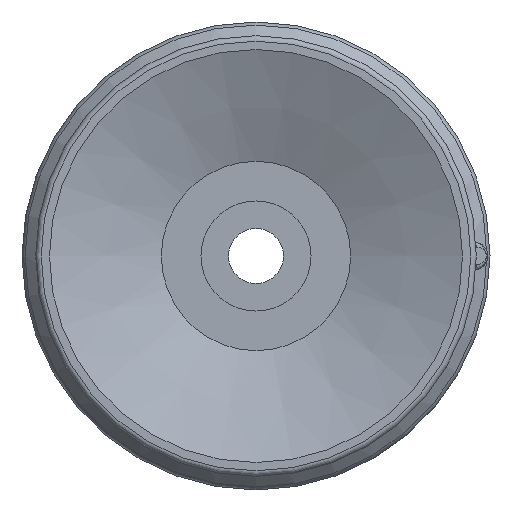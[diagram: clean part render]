
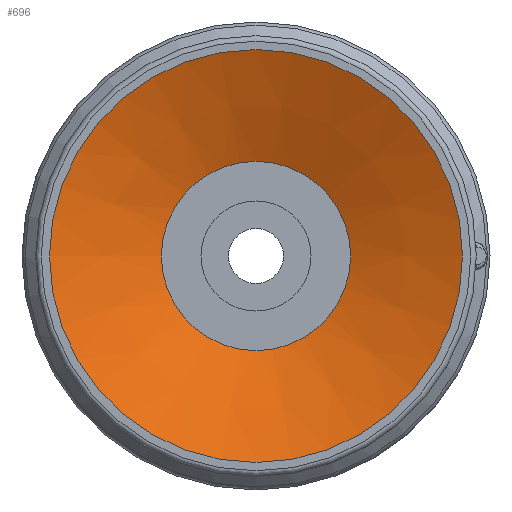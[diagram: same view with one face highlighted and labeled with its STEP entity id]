
A CAD part, front view. The second image highlights one B-rep face of the part: STEP entity #696.
In plain terms, the highlighted conical face has half-angle 67.5 degrees and reference radius 3.437 mm.
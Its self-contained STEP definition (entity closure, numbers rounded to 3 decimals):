
#696=ADVANCED_FACE('',(#1009,#1010),#1011,.F.);
#1009=FACE_BOUND('',#2409,.T.);
#1010=FACE_OUTER_BOUND('',#2410,.T.);
#1011=CONICAL_SURFACE('',#2411,3.437,1.178);
#2409=EDGE_LOOP('',(#3385));
#2410=EDGE_LOOP('',(#3386));
#2411=AXIS2_PLACEMENT_3D('',#3387,#3388,#3389);
#3385=ORIENTED_EDGE('',*,*,#3875,.F.);
#3386=ORIENTED_EDGE('',*,*,#3863,.T.);
#3387=CARTESIAN_POINT('',(0.0,0.0,1.683));
#3388=DIRECTION('',(0.0,0.,-1.0));
#3389=DIRECTION('',(0.0,1.0,0.));
#3863=EDGE_CURVE('',#4234,#4234,#4235,.T.);
#3875=EDGE_CURVE('',#4258,#4258,#4259,.T.);
#4234=VERTEX_POINT('',#5197);
#4235=CIRCLE('',#5198,7.5);
#4258=VERTEX_POINT('',#5221);
#4259=CIRCLE('',#5222,3.437);
#5197=CARTESIAN_POINT('',(-7.5,0.0,0.));
#5198=AXIS2_PLACEMENT_3D('',#5917,#5918,#5919);
#5221=CARTESIAN_POINT('',(-3.437,0.0,1.683));
#5222=AXIS2_PLACEMENT_3D('',#5953,#5954,#5955);
#5917=CARTESIAN_POINT('',(0.0,0.0,0.));
#5918=DIRECTION('',(0.0,0.,-1.0));
#5919=DIRECTION('',(0.0,1.0,0.));
#5953=CARTESIAN_POINT('',(0.0,0.0,1.683));
#5954=DIRECTION('',(0.0,0.,-1.0));
#5955=DIRECTION('',(0.0,1.0,0.));
